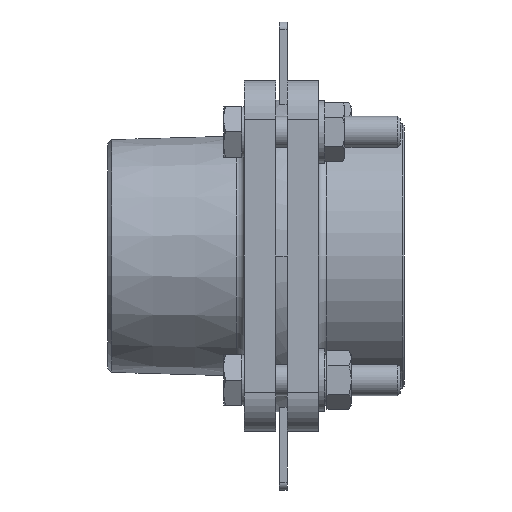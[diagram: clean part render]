
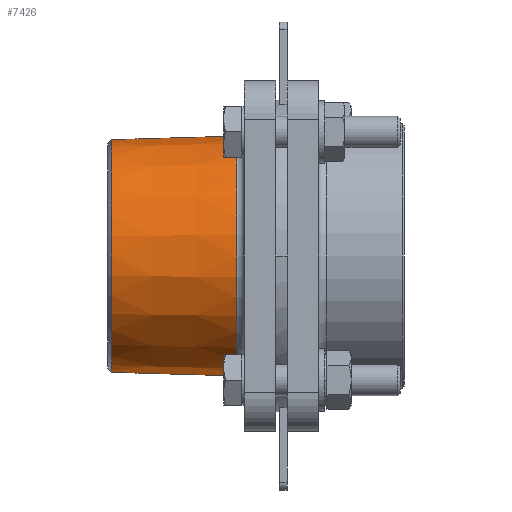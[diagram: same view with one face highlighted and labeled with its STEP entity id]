
A CAD part, left-side view. The second image highlights one B-rep face of the part: STEP entity #7426.
In plain terms, the highlighted conical face has half-angle 1.637 degrees and reference radius 30.744 mm.
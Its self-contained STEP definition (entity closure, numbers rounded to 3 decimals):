
#219 = ORIENTED_EDGE ( 'NONE', *, *, #712, .T. ) ;
#221 = CARTESIAN_POINT ( 'NONE',  ( 1.279, 36.025, 33.194 ) ) ;
#271 = ORIENTED_EDGE ( 'NONE', *, *, #5136, .F. ) ;
#370 = CIRCLE ( 'NONE', #7112, 29.829 ) ;
#712 = EDGE_CURVE ( 'NONE', #3839, #3885, #370, .T. ) ;
#721 = DIRECTION ( 'NONE',  ( 0., 0., -1. ) ) ;
#945 = ORIENTED_EDGE ( 'NONE', *, *, #7323, .T. ) ;
#1016 = AXIS2_PLACEMENT_3D ( 'NONE', #9394, #8821, #3690 ) ;
#1839 = CARTESIAN_POINT ( 'NONE',  ( 1.279, 3.997, -27.38 ) ) ;
#2393 = VECTOR ( 'NONE', #9087, 1000. ) ;
#3074 = VERTEX_POINT ( 'NONE', #3098 ) ;
#3098 = CARTESIAN_POINT ( 'NONE',  ( 1.279, 3.997, -27.38 ) ) ;
#3371 = LINE ( 'NONE', #1839, #5161 ) ;
#3454 = CARTESIAN_POINT ( 'NONE',  ( 1.279, 3.997, 34.109 ) ) ;
#3690 = DIRECTION ( 'NONE',  ( 0., 0., -1. ) ) ;
#3839 = VERTEX_POINT ( 'NONE', #221 ) ;
#3885 = VERTEX_POINT ( 'NONE', #7778 ) ;
#4202 = LINE ( 'NONE', #7229, #2393 ) ;
#4928 = AXIS2_PLACEMENT_3D ( 'NONE', #9624, #5259, #721 ) ;
#5136 = EDGE_CURVE ( 'NONE', #3839, #5822, #4202, .T. ) ;
#5161 = VECTOR ( 'NONE', #9299, 1000. ) ;
#5259 = DIRECTION ( 'NONE',  ( 0., -1., 0. ) ) ;
#5455 = CIRCLE ( 'NONE', #4928, 30.744 ) ;
#5722 = FACE_OUTER_BOUND ( 'NONE', #8564, .T. ) ;
#5739 = DIRECTION ( 'NONE',  ( 0., 0., 1. ) ) ;
#5822 = VERTEX_POINT ( 'NONE', #3454 ) ;
#6736 = CONICAL_SURFACE ( 'NONE', #1016, 30.744, 0.029 ) ;
#7112 = AXIS2_PLACEMENT_3D ( 'NONE', #9218, #7777, #5739 ) ;
#7229 = CARTESIAN_POINT ( 'NONE',  ( 1.279, 3.997, 34.109 ) ) ;
#7323 = EDGE_CURVE ( 'NONE', #3885, #3074, #3371, .T. ) ;
#7426 = ADVANCED_FACE ( 'NONE', ( #5722 ), #6736, .T. ) ;
#7777 = DIRECTION ( 'NONE',  ( 0., -1., 0. ) ) ;
#7778 = CARTESIAN_POINT ( 'NONE',  ( 1.279, 36.025, -26.465 ) ) ;
#8564 = EDGE_LOOP ( 'NONE', ( #271, #219, #945, #9553 ) ) ;
#8821 = DIRECTION ( 'NONE',  ( 0., -1., 0. ) ) ;
#9087 = DIRECTION ( 'NONE',  ( 0., -1., 0.029 ) ) ;
#9203 = EDGE_CURVE ( 'NONE', #5822, #3074, #5455, .T. ) ;
#9218 = CARTESIAN_POINT ( 'NONE',  ( 1.279, 36.025, 3.364 ) ) ;
#9299 = DIRECTION ( 'NONE',  ( 0., -1., -0.029 ) ) ;
#9394 = CARTESIAN_POINT ( 'NONE',  ( 1.279, 3.997, 3.364 ) ) ;
#9553 = ORIENTED_EDGE ( 'NONE', *, *, #9203, .F. ) ;
#9624 = CARTESIAN_POINT ( 'NONE',  ( 1.279, 3.997, 3.364 ) ) ;
